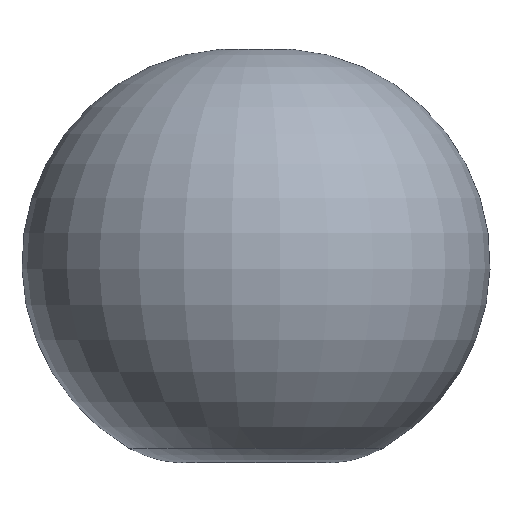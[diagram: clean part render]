
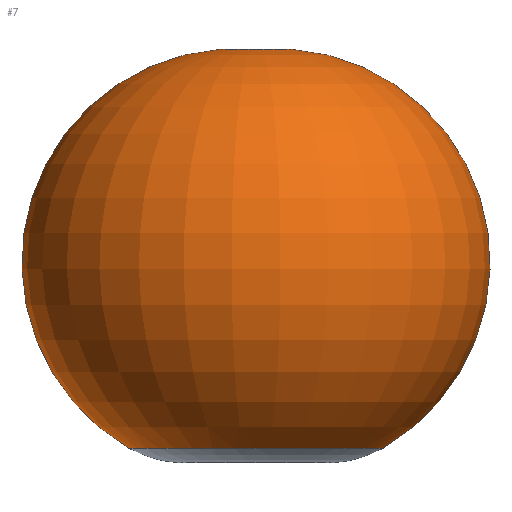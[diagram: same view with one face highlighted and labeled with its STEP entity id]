
A CAD part, left-side view. The second image highlights one B-rep face of the part: STEP entity #7.
In plain terms, the highlighted toroidal (fillet/blend) face has major radius 175 mm and minor radius 1860 mm.
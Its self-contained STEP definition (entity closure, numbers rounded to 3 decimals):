
#7 = ADVANCED_FACE ( 'NONE', ( #223 ), #155, .T. ) ;
#33 = DIRECTION ( 'NONE',  ( 0., 0., 1. ) ) ;
#34 = DIRECTION ( 'NONE',  ( -1., 0., 0. ) ) ;
#35 = CARTESIAN_POINT ( 'NONE',  ( 0., 0., 2346.749 ) ) ;
#36 = CARTESIAN_POINT ( 'NONE',  ( 0., 175., 495. ) ) ;
#58 = VERTEX_POINT ( 'NONE', #145 ) ;
#59 = CARTESIAN_POINT ( 'NONE',  ( 0., 0., -1115.807 ) ) ;
#61 = DIRECTION ( 'NONE',  ( 0., 1., 0. ) ) ;
#62 = DIRECTION ( 'NONE',  ( 1., 0., 0. ) ) ;
#63 = CARTESIAN_POINT ( 'NONE',  ( 0., -175., 495. ) ) ;
#78 = CARTESIAN_POINT ( 'NONE',  ( 0., 1105., -1115.807 ) ) ;
#116 = DIRECTION ( 'NONE',  ( 0., 1., 0. ) ) ;
#118 = CARTESIAN_POINT ( 'NONE',  ( 0., 0., 495. ) ) ;
#123 = DIRECTION ( 'NONE',  ( 0., 0., -1. ) ) ;
#128 = DIRECTION ( 'NONE',  ( 0., 1., 0. ) ) ;
#140 = DIRECTION ( 'NONE',  ( 0., 0., -1. ) ) ;
#145 = CARTESIAN_POINT ( 'NONE',  ( 0., -1105., -1115.807 ) ) ;
#153 = CIRCLE ( 'NONE', #182, 1860. ) ;
#155 = TOROIDAL_SURFACE ( 'NONE', #200, 175., 1860. ) ;
#166 = AXIS2_PLACEMENT_3D ( 'NONE', #36, #34, #33 ) ;
#168 = CIRCLE ( 'NONE', #183, 1105. ) ;
#182 = AXIS2_PLACEMENT_3D ( 'NONE', #63, #62, #61 ) ;
#183 = AXIS2_PLACEMENT_3D ( 'NONE', #59, #140, #128 ) ;
#188 = EDGE_CURVE ( 'NONE', #222, #58, #153, .T. ) ;
#191 = EDGE_CURVE ( 'NONE', #58, #210, #168, .T. ) ;
#200 = AXIS2_PLACEMENT_3D ( 'NONE', #118, #123, #116 ) ;
#207 = EDGE_CURVE ( 'NONE', #222, #210, #221, .T. ) ;
#209 = ORIENTED_EDGE ( 'NONE', *, *, #207, .T. ) ;
#210 = VERTEX_POINT ( 'NONE', #78 ) ;
#212 = EDGE_LOOP ( 'NONE', ( #229, #209, #226 ) ) ;
#221 = CIRCLE ( 'NONE', #166, 1860. ) ;
#222 = VERTEX_POINT ( 'NONE', #35 ) ;
#223 = FACE_OUTER_BOUND ( 'NONE', #212, .T. ) ;
#226 = ORIENTED_EDGE ( 'NONE', *, *, #191, .F. ) ;
#229 = ORIENTED_EDGE ( 'NONE', *, *, #188, .F. ) ;
